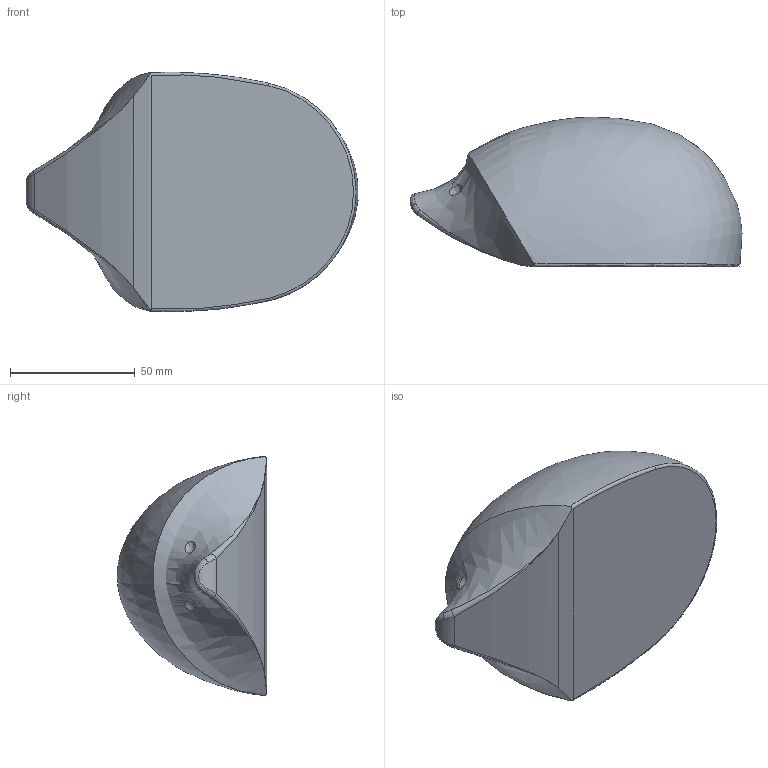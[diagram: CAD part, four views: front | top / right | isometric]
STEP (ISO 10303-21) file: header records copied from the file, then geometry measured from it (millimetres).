
FILE_DESCRIPTION (( 'STEP AP214' ), '1' );
FILE_NAME ('Ñáîðêà1.STEP', '2026-08-20T16:59:09', ( '' ), ( '' ), 'SwSTEP 2.0', 'SolidWorks 2024', '' );
FILE_SCHEMA (( 'AUTOMOTIVE_DESIGN' ));
Length unit declared in the file: millimetre
Products named in the file (2): Сборка1; Дет1
Assembly tree (1 placements, depth 2):
  Сборка1
    Дет1
Bounding box: 133.34 x 59.97 x 96.1 mm (x, y, z)
Volume: 377045.7 mm3; surface area: 29604.1 mm2
Topology: 1 solids, 1 shells, 19 faces, 44 edges, 29 vertices
Faces by surface type: bspline 15, cylinder 3, plane 1
Entity records: 4386 total; most frequent: CARTESIAN_POINT 3956, ORIENTED_EDGE 88, EDGE_CURVE 44, B_SPLINE_CURVE_WITH_KNOTS 34, DIRECTION 29, VERTEX_POINT 29, EDGE_LOOP 21, FACE_OUTER_BOUND 19
